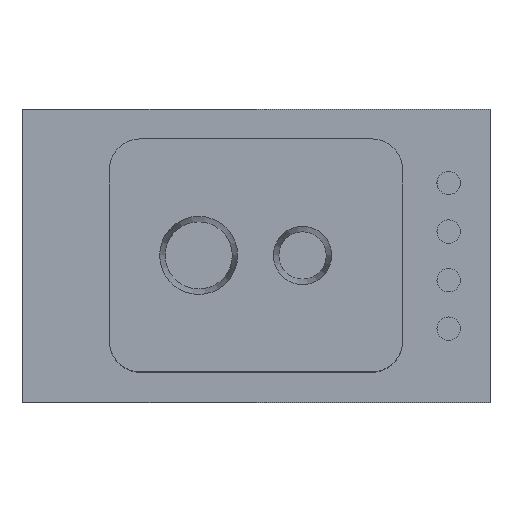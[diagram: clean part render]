
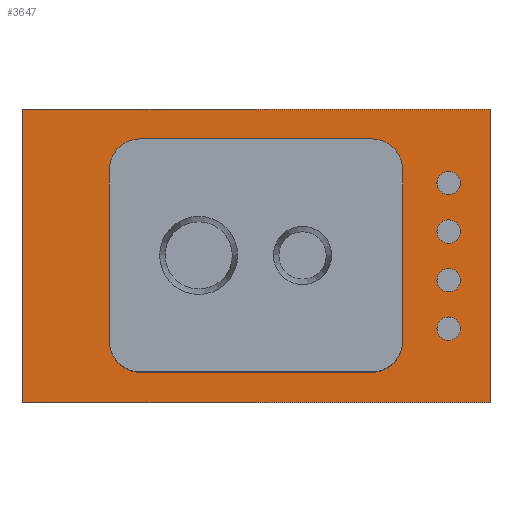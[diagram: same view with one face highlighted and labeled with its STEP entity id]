
A CAD part, top view. The second image highlights one B-rep face of the part: STEP entity #3647.
In plain terms, the highlighted planar face has unit normal (0, 0, 1).
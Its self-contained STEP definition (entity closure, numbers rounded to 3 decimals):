
#31=CIRCLE('',#3773,0.3);
#33=CIRCLE('',#3777,0.3);
#35=CIRCLE('',#3781,0.3);
#37=CIRCLE('',#3785,0.3);
#38=CIRCLE('',#3788,0.8);
#39=CIRCLE('',#3789,0.8);
#40=CIRCLE('',#3790,0.8);
#41=CIRCLE('',#3791,0.8);
#125=FACE_BOUND('',#654,.T.);
#126=FACE_BOUND('',#655,.T.);
#127=FACE_BOUND('',#656,.T.);
#128=FACE_BOUND('',#657,.T.);
#129=FACE_BOUND('',#658,.T.);
#223=PLANE('',#3787);
#421=FACE_OUTER_BOUND('',#653,.T.);
#653=EDGE_LOOP('',(#3288,#3289,#3290,#3291));
#654=EDGE_LOOP('',(#3292));
#655=EDGE_LOOP('',(#3293));
#656=EDGE_LOOP('',(#3294));
#657=EDGE_LOOP('',(#3295));
#658=EDGE_LOOP('',(#3296,#3297,#3298,#3299,#3300,#3301,#3302,#3303));
#968=LINE('',#6557,#1279);
#969=LINE('',#6559,#1280);
#970=LINE('',#6561,#1281);
#971=LINE('',#6562,#1282);
#972=LINE('',#6567,#1283);
#973=LINE('',#6571,#1284);
#974=LINE('',#6575,#1285);
#975=LINE('',#6578,#1286);
#1279=VECTOR('',#4335,10.);
#1280=VECTOR('',#4336,10.);
#1281=VECTOR('',#4337,10.);
#1282=VECTOR('',#4338,10.);
#1283=VECTOR('',#4341,10.);
#1284=VECTOR('',#4344,10.);
#1285=VECTOR('',#4347,10.);
#1286=VECTOR('',#4350,10.);
#1798=VERTEX_POINT('',#6533);
#1800=VERTEX_POINT('',#6539);
#1802=VERTEX_POINT('',#6545);
#1804=VERTEX_POINT('',#6551);
#1805=VERTEX_POINT('',#6555);
#1806=VERTEX_POINT('',#6556);
#1807=VERTEX_POINT('',#6558);
#1808=VERTEX_POINT('',#6560);
#1809=VERTEX_POINT('',#6563);
#1810=VERTEX_POINT('',#6564);
#1811=VERTEX_POINT('',#6566);
#1812=VERTEX_POINT('',#6568);
#1813=VERTEX_POINT('',#6570);
#1814=VERTEX_POINT('',#6572);
#1815=VERTEX_POINT('',#6574);
#1816=VERTEX_POINT('',#6576);
#2301=EDGE_CURVE('',#1798,#1798,#31,.T.);
#2303=EDGE_CURVE('',#1800,#1800,#33,.T.);
#2305=EDGE_CURVE('',#1802,#1802,#35,.T.);
#2307=EDGE_CURVE('',#1804,#1804,#37,.T.);
#2308=EDGE_CURVE('',#1805,#1806,#968,.T.);
#2309=EDGE_CURVE('',#1807,#1805,#969,.T.);
#2310=EDGE_CURVE('',#1808,#1807,#970,.T.);
#2311=EDGE_CURVE('',#1806,#1808,#971,.T.);
#2312=EDGE_CURVE('',#1809,#1810,#38,.T.);
#2313=EDGE_CURVE('',#1809,#1811,#972,.T.);
#2314=EDGE_CURVE('',#1812,#1811,#39,.T.);
#2315=EDGE_CURVE('',#1812,#1813,#973,.T.);
#2316=EDGE_CURVE('',#1814,#1813,#40,.T.);
#2317=EDGE_CURVE('',#1814,#1815,#974,.T.);
#2318=EDGE_CURVE('',#1816,#1815,#41,.T.);
#2319=EDGE_CURVE('',#1816,#1810,#975,.T.);
#3288=ORIENTED_EDGE('',*,*,#2308,.F.);
#3289=ORIENTED_EDGE('',*,*,#2309,.F.);
#3290=ORIENTED_EDGE('',*,*,#2310,.F.);
#3291=ORIENTED_EDGE('',*,*,#2311,.F.);
#3292=ORIENTED_EDGE('',*,*,#2301,.T.);
#3293=ORIENTED_EDGE('',*,*,#2303,.T.);
#3294=ORIENTED_EDGE('',*,*,#2305,.T.);
#3295=ORIENTED_EDGE('',*,*,#2307,.T.);
#3296=ORIENTED_EDGE('',*,*,#2312,.F.);
#3297=ORIENTED_EDGE('',*,*,#2313,.T.);
#3298=ORIENTED_EDGE('',*,*,#2314,.F.);
#3299=ORIENTED_EDGE('',*,*,#2315,.T.);
#3300=ORIENTED_EDGE('',*,*,#2316,.F.);
#3301=ORIENTED_EDGE('',*,*,#2317,.T.);
#3302=ORIENTED_EDGE('',*,*,#2318,.F.);
#3303=ORIENTED_EDGE('',*,*,#2319,.T.);
#3647=ADVANCED_FACE('',(#421,#125,#126,#127,#128,#129),#223,.T.);
#3773=AXIS2_PLACEMENT_3D('',#6534,#4305,#4306);
#3777=AXIS2_PLACEMENT_3D('',#6540,#4313,#4314);
#3781=AXIS2_PLACEMENT_3D('',#6546,#4321,#4322);
#3785=AXIS2_PLACEMENT_3D('',#6552,#4329,#4330);
#3787=AXIS2_PLACEMENT_3D('',#6554,#4333,#4334);
#3788=AXIS2_PLACEMENT_3D('',#6565,#4339,#4340);
#3789=AXIS2_PLACEMENT_3D('',#6569,#4342,#4343);
#3790=AXIS2_PLACEMENT_3D('',#6573,#4345,#4346);
#3791=AXIS2_PLACEMENT_3D('',#6577,#4348,#4349);
#4305=DIRECTION('center_axis',(0.,0.,-1.));
#4306=DIRECTION('ref_axis',(-1.,0.,0.));
#4313=DIRECTION('center_axis',(0.,0.,-1.));
#4314=DIRECTION('ref_axis',(-1.,0.,0.));
#4321=DIRECTION('center_axis',(0.,0.,-1.));
#4322=DIRECTION('ref_axis',(-1.,0.,0.));
#4329=DIRECTION('center_axis',(0.,0.,-1.));
#4330=DIRECTION('ref_axis',(-1.,0.,0.));
#4333=DIRECTION('center_axis',(0.,0.,1.));
#4334=DIRECTION('ref_axis',(1.,0.,0.));
#4335=DIRECTION('',(-1.,0.,0.));
#4336=DIRECTION('',(0.,-1.,0.));
#4337=DIRECTION('',(1.,0.,0.));
#4338=DIRECTION('',(0.,1.,0.));
#4339=DIRECTION('center_axis',(0.,0.,1.));
#4340=DIRECTION('ref_axis',(-0.707,-0.707,0.));
#4341=DIRECTION('',(0.,1.,0.));
#4342=DIRECTION('center_axis',(0.,0.,1.));
#4343=DIRECTION('ref_axis',(-0.707,0.707,0.));
#4344=DIRECTION('',(1.,0.,0.));
#4345=DIRECTION('center_axis',(0.,0.,1.));
#4346=DIRECTION('ref_axis',(0.707,0.707,0.));
#4347=DIRECTION('',(0.,-1.,0.));
#4348=DIRECTION('center_axis',(0.,0.,1.));
#4349=DIRECTION('ref_axis',(0.707,-0.707,0.));
#4350=DIRECTION('',(-1.,0.,0.));
#6533=CARTESIAN_POINT('',(5.258,-0.625,0.));
#6534=CARTESIAN_POINT('Origin',(4.958,-0.625,0.));
#6539=CARTESIAN_POINT('',(5.258,1.875,0.));
#6540=CARTESIAN_POINT('Origin',(4.958,1.875,0.));
#6545=CARTESIAN_POINT('',(5.258,0.625,0.));
#6546=CARTESIAN_POINT('Origin',(4.958,0.625,0.));
#6551=CARTESIAN_POINT('',(5.258,-1.875,0.));
#6552=CARTESIAN_POINT('Origin',(4.958,-1.875,0.));
#6554=CARTESIAN_POINT('Origin',(0.,0.,0.));
#6555=CARTESIAN_POINT('',(6.025,-3.775,0.));
#6556=CARTESIAN_POINT('',(-6.025,-3.775,0.));
#6557=CARTESIAN_POINT('',(6.025,-3.775,0.));
#6558=CARTESIAN_POINT('',(6.025,3.775,0.));
#6559=CARTESIAN_POINT('',(6.025,3.775,0.));
#6560=CARTESIAN_POINT('',(-6.025,3.775,0.));
#6561=CARTESIAN_POINT('',(-6.025,3.775,0.));
#6562=CARTESIAN_POINT('',(-6.025,-3.775,0.));
#6563=CARTESIAN_POINT('',(-3.775,-2.2,0.));
#6564=CARTESIAN_POINT('',(-2.975,-3.,0.));
#6565=CARTESIAN_POINT('Origin',(-2.975,-2.2,0.));
#6566=CARTESIAN_POINT('',(-3.775,2.2,0.));
#6567=CARTESIAN_POINT('',(-3.775,-3.,0.));
#6568=CARTESIAN_POINT('',(-2.975,3.,0.));
#6569=CARTESIAN_POINT('Origin',(-2.975,2.2,0.));
#6570=CARTESIAN_POINT('',(2.975,3.,0.));
#6571=CARTESIAN_POINT('',(-3.775,3.,0.));
#6572=CARTESIAN_POINT('',(3.775,2.2,0.));
#6573=CARTESIAN_POINT('Origin',(2.975,2.2,0.));
#6574=CARTESIAN_POINT('',(3.775,-2.2,0.));
#6575=CARTESIAN_POINT('',(3.775,3.,0.));
#6576=CARTESIAN_POINT('',(2.975,-3.,0.));
#6577=CARTESIAN_POINT('Origin',(2.975,-2.2,0.));
#6578=CARTESIAN_POINT('',(3.775,-3.,0.));
